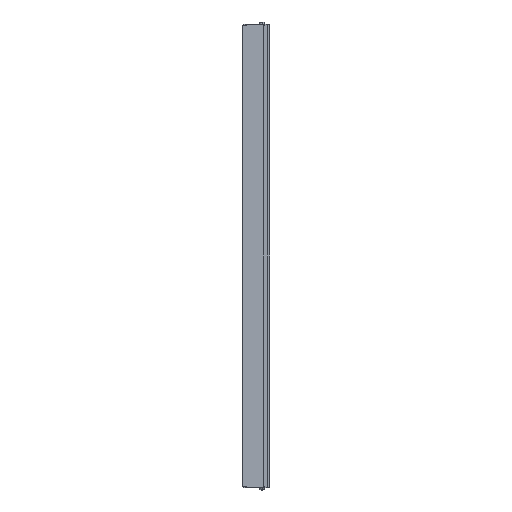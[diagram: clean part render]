
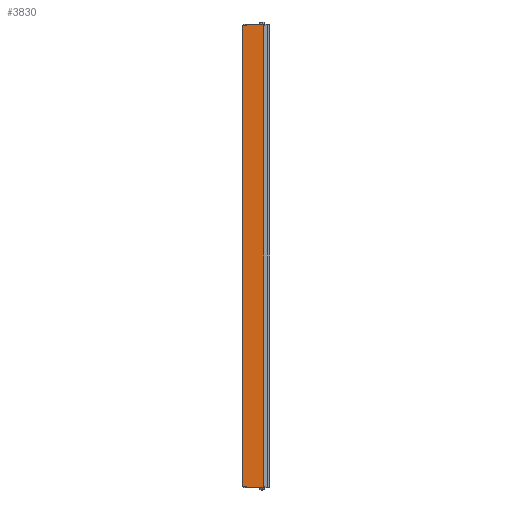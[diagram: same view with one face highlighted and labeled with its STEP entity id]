
A CAD part, left-side view. The second image highlights one B-rep face of the part: STEP entity #3830.
In plain terms, the highlighted planar face has unit normal (-1, 0, 0).
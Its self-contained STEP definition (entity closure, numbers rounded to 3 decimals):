
#466=DIRECTION('',(0.,1.,0.));
#467=VECTOR('',#466,3.303);
#468=CARTESIAN_POINT('',(-14.,13.197,229.5));
#469=LINE('',#468,#467);
#839=DIRECTION('',(0.,1.,0.));
#840=VECTOR('',#839,17.497);
#841=CARTESIAN_POINT('',(-14.,-4.3,230.5));
#842=LINE('',#841,#840);
#847=DIRECTION('',(0.,0.,1.));
#848=VECTOR('',#847,461.);
#849=CARTESIAN_POINT('',(-14.,-4.3,-230.5));
#850=LINE('',#849,#848);
#1202=DIRECTION('',(0.,0.,-1.));
#1203=VECTOR('',#1202,459.);
#1204=CARTESIAN_POINT('',(-14.,16.5,229.5));
#1205=LINE('',#1204,#1203);
#1206=DIRECTION('',(0.,0.,1.));
#1207=VECTOR('',#1206,1.);
#1208=CARTESIAN_POINT('',(-14.,13.197,-230.5));
#1209=LINE('',#1208,#1207);
#1210=DIRECTION('',(0.,1.,0.));
#1211=VECTOR('',#1210,3.303);
#1212=CARTESIAN_POINT('',(-14.,13.197,-229.5));
#1213=LINE('',#1212,#1211);
#1214=DIRECTION('',(0.,0.,1.));
#1215=VECTOR('',#1214,1.);
#1216=CARTESIAN_POINT('',(-14.,13.197,229.5));
#1217=LINE('',#1216,#1215);
#1222=DIRECTION('',(0.,-1.,0.));
#1223=VECTOR('',#1222,17.497);
#1224=CARTESIAN_POINT('',(-14.,13.197,-230.5));
#1225=LINE('',#1224,#1223);
#1810=CARTESIAN_POINT('',(-14.,16.5,-229.5));
#1811=VERTEX_POINT('',#1810);
#1820=CARTESIAN_POINT('',(-14.,16.5,229.5));
#1821=VERTEX_POINT('',#1820);
#2026=CARTESIAN_POINT('',(-14.,13.197,230.5));
#2027=VERTEX_POINT('',#2026);
#2052=CARTESIAN_POINT('',(-14.,-4.3,230.5));
#2053=VERTEX_POINT('',#2052);
#2098=CARTESIAN_POINT('',(-14.,13.197,229.5));
#2100=VERTEX_POINT('',#2098);
#2284=CARTESIAN_POINT('',(-14.,13.197,-230.5));
#2285=VERTEX_POINT('',#2284);
#2286=CARTESIAN_POINT('',(-14.,-4.3,-230.5));
#2287=VERTEX_POINT('',#2286);
#2328=CARTESIAN_POINT('',(-14.,13.197,-229.5));
#2329=VERTEX_POINT('',#2328);
#3813=CARTESIAN_POINT('',(-14.,16.5,-229.5));
#3814=DIRECTION('',(-1.,0.,0.));
#3815=DIRECTION('',(0.,-1.,0.));
#3816=AXIS2_PLACEMENT_3D('',#3813,#3814,#3815);
#3817=PLANE('',#3816);
#3818=ORIENTED_EDGE('',*,*,#3213,.F.);
#3820=ORIENTED_EDGE('',*,*,#3819,.F.);
#3822=ORIENTED_EDGE('',*,*,#3821,.T.);
#3823=ORIENTED_EDGE('',*,*,#2447,.T.);
#3824=ORIENTED_EDGE('',*,*,#3808,.F.);
#3825=ORIENTED_EDGE('',*,*,#2856,.F.);
#3826=ORIENTED_EDGE('',*,*,#3183,.T.);
#3827=ORIENTED_EDGE('',*,*,#3198,.F.);
#3828=EDGE_LOOP('',(#3818,#3820,#3822,#3823,#3824,#3825,#3826,#3827));
#3829=FACE_OUTER_BOUND('',#3828,.F.);
#2447=EDGE_CURVE('',#2329,#1811,#1213,.T.);
#2856=EDGE_CURVE('',#2100,#1821,#469,.T.);
#3183=EDGE_CURVE('',#2100,#2027,#1217,.T.);
#3198=EDGE_CURVE('',#2053,#2027,#842,.T.);
#3213=EDGE_CURVE('',#2287,#2053,#850,.T.);
#3808=EDGE_CURVE('',#1821,#1811,#1205,.T.);
#3819=EDGE_CURVE('',#2285,#2287,#1225,.T.);
#3821=EDGE_CURVE('',#2285,#2329,#1209,.T.);
#3830=ADVANCED_FACE('',(#3829),#3817,.T.);
